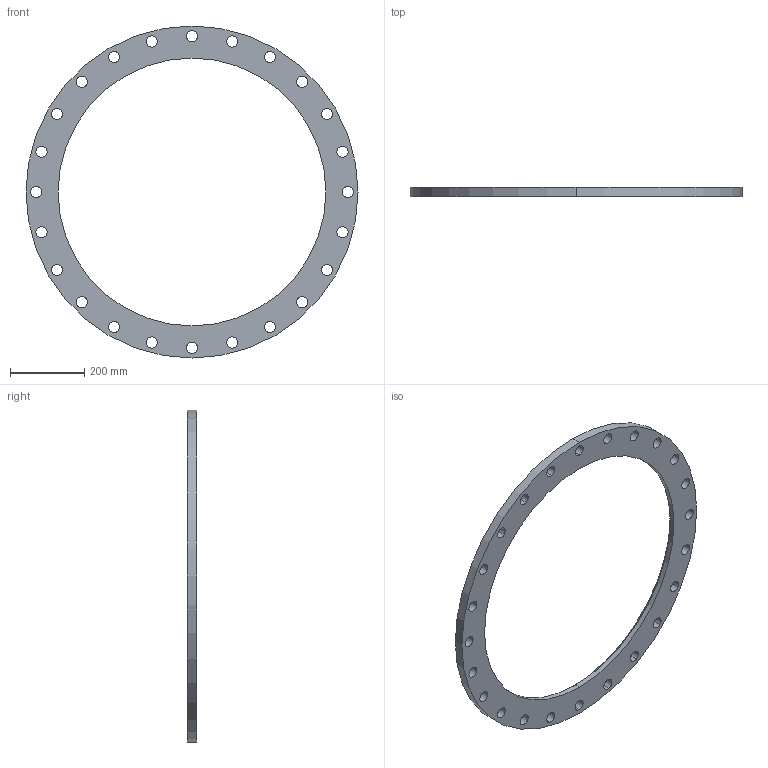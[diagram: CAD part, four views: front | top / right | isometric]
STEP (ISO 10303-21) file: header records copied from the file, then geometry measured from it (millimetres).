
FILE_DESCRIPTION (( 'STEP AP203' ), '1' );
FILE_NAME ('3D_R185_PN10_DN700_176642280.STEP', '2024-07-10T07:31:37', ( '' ), ( '' ), 'SwSTEP 2.0', 'SolidWorks 2024', '' );
FILE_SCHEMA (( 'CONFIG_CONTROL_DESIGN' ));
Length unit declared in the file: millimetre
Products named in the file (1): 3D_R185_PN10_DN700_176642280
Bounding box: 895 x 25 x 895 mm (x, y, z)
Volume: 4942338.2 mm3; surface area: 575226.6 mm2
Topology: 1 solids, 1 shells, 56 faces, 160 edges, 106 vertices
Faces by surface type: cylinder 52, cone 2, plane 2
Entity records: 2071 total; most frequent: DIRECTION 380, CARTESIAN_POINT 323, ORIENTED_EDGE 320, AXIS2_PLACEMENT_3D 163, EDGE_CURVE 160, CIRCLE 106, EDGE_LOOP 106, VERTEX_POINT 106
